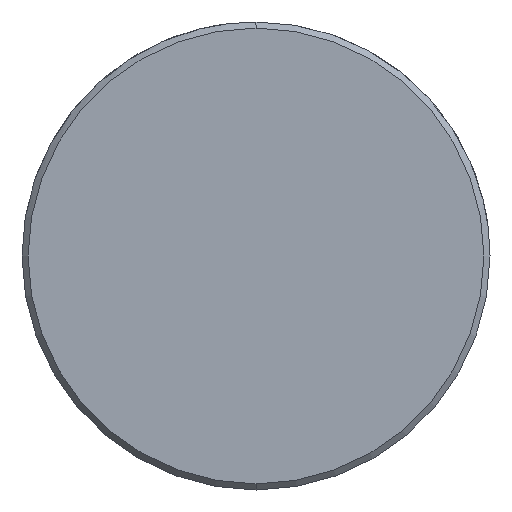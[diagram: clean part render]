
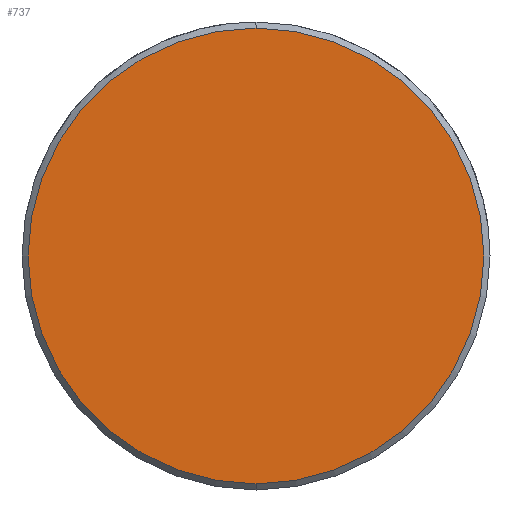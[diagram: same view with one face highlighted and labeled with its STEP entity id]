
A CAD part, left-side view. The second image highlights one B-rep face of the part: STEP entity #737.
In plain terms, the highlighted planar face has unit normal (-1, 0, 0).
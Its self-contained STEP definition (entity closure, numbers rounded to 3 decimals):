
#669=CARTESIAN_POINT('Vertex',(0.,0.,-11.2)) ;
#672=CARTESIAN_POINT('Axis2P3D Location',(0.,0.,0.)) ;
#676=CARTESIAN_POINT('Vertex',(0.,11.2,0.)) ;
#679=CARTESIAN_POINT('Axis2P3D Location',(0.,0.,0.)) ;
#683=CARTESIAN_POINT('Vertex',(0.,0.,11.2)) ;
#705=CARTESIAN_POINT('Axis2P3D Location',(0.,0.,0.)) ;
#709=CARTESIAN_POINT('Vertex',(0.,-11.2,0.)) ;
#712=CARTESIAN_POINT('Axis2P3D Location',(0.,0.,0.)) ;
#726=CARTESIAN_POINT('Axis2P3D Location',(0.,0.,0.)) ;
#673=DIRECTION('Axis2P3D Direction',(1.,0.,-0.)) ;
#680=DIRECTION('Axis2P3D Direction',(1.,0.,-0.)) ;
#706=DIRECTION('Axis2P3D Direction',(1.,0.,-0.)) ;
#713=DIRECTION('Axis2P3D Direction',(1.,0.,-0.)) ;
#727=DIRECTION('Axis2P3D Direction',(1.,0.,-0.)) ;
#728=DIRECTION('Axis2P3D XDirection',(-0.,0.,-1.)) ;
#674=AXIS2_PLACEMENT_3D('Circle Axis2P3D',#672,#673,$) ;
#681=AXIS2_PLACEMENT_3D('Circle Axis2P3D',#679,#680,$) ;
#707=AXIS2_PLACEMENT_3D('Circle Axis2P3D',#705,#706,$) ;
#714=AXIS2_PLACEMENT_3D('Circle Axis2P3D',#712,#713,$) ;
#729=AXIS2_PLACEMENT_3D('Plane Axis2P3D',#726,#727,#728) ;
#732=ORIENTED_EDGE('',*,*,#678,.F.) ;
#733=ORIENTED_EDGE('',*,*,#716,.F.) ;
#734=ORIENTED_EDGE('',*,*,#711,.F.) ;
#735=ORIENTED_EDGE('',*,*,#685,.F.) ;
#737=ADVANCED_FACE('549-20X180',(#736),#730,.F.) ;
#675=CIRCLE('generated circle',#674,11.2) ;
#682=CIRCLE('generated circle',#681,11.2) ;
#708=CIRCLE('generated circle',#707,11.2) ;
#715=CIRCLE('generated circle',#714,11.2) ;
#678=EDGE_CURVE('',#670,#677,#675,.T.) ;
#685=EDGE_CURVE('',#677,#684,#682,.T.) ;
#711=EDGE_CURVE('',#684,#710,#708,.T.) ;
#716=EDGE_CURVE('',#710,#670,#715,.T.) ;
#731=EDGE_LOOP('',(#732,#733,#734,#735)) ;
#736=FACE_OUTER_BOUND('',#731,.T.) ;
#730=PLANE('Plane',#729) ;
#670=VERTEX_POINT('',#669) ;
#677=VERTEX_POINT('',#676) ;
#684=VERTEX_POINT('',#683) ;
#710=VERTEX_POINT('',#709) ;
